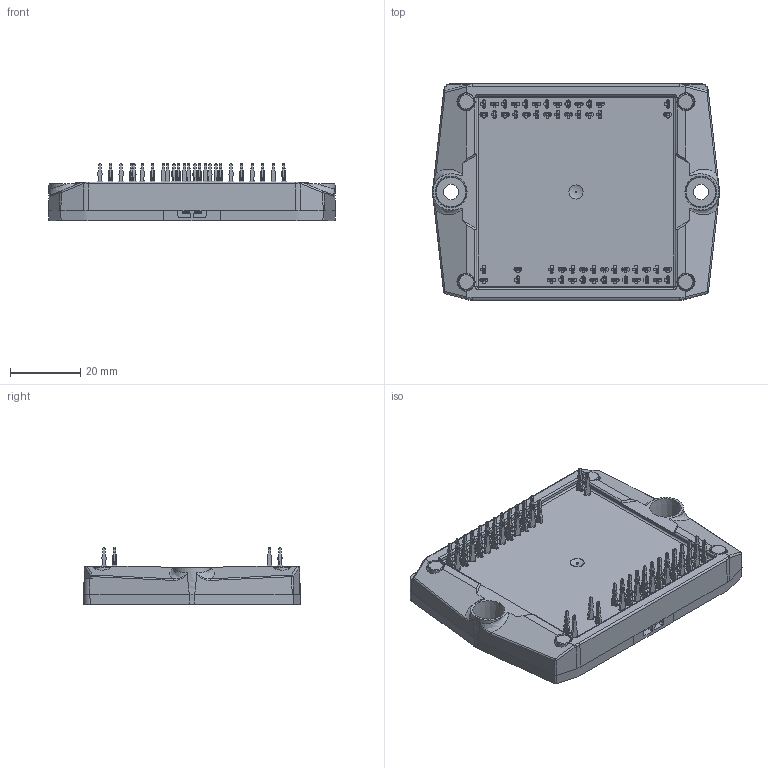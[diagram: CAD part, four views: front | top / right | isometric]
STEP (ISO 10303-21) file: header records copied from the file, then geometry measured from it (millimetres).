
FILE_DESCRIPTION(/* description */ ('Unknown'),/* implementation_level */ '2;1');
FILE_NAME(/* name */ 'FlowS3-0T120T-PT00(540)-01-OL',/* time_stamp */ '2025-09-04T13:44:09+02:00',/* author */ ('Unknown'),/* organization */ ('Unknown'),/* preprocessor_version */ 'ST-DEVELOPER v20',/* originating_system */ 'Solid Edge',/* authorisation */ 'Unknown');
FILE_SCHEMA (('AUTOMOTIVE_DESIGN {1 0 10303 214 3 1 1}'));
Products named in the file (1): FlowS3-0T120T-PT00-OL
Bounding box: 81.54 x 61.55 x 16.43 mm (x, y, z)
Volume: 41584.5 mm3; surface area: 19732.1 mm2
Topology: 1 solids, 1 shells, 3208 faces, 8848 edges, 5772 vertices
Faces by surface type: plane 1689, cylinder 910, cone 496, bspline 96, torus 9, sphere 8
Full cylindrical faces by diameter (mm): 0.5 x1, 4 x1, 4.4 x2, 10.4 x2
Entity records: 128239 total; most frequent: CARTESIAN_POINT 23770, ORIENTED_EDGE 17606, DIRECTION 16787, EDGE_CURVE 8803, VERTEX_POINT 5758, AXIS2_PLACEMENT_3D 5695, LINE 5397, VECTOR 5397
